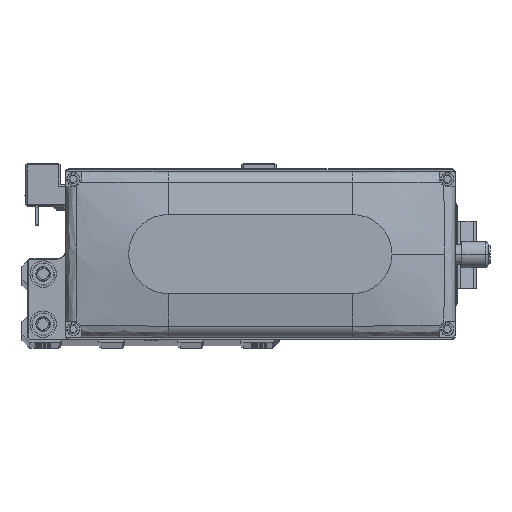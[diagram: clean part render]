
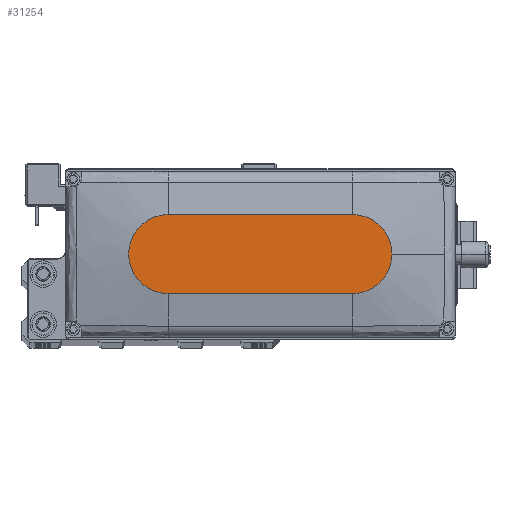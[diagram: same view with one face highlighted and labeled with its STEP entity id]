
A CAD part, top view. The second image highlights one B-rep face of the part: STEP entity #31254.
In plain terms, the highlighted planar face has unit normal (0, 0, 1).
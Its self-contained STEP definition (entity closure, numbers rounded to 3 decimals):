
#622 = CARTESIAN_POINT ( 'NONE',  ( 35., -15., 35. ) ) ;
#1584 = CARTESIAN_POINT ( 'NONE',  ( -35., -15., 35. ) ) ;
#1585 = CIRCLE ( 'NONE', #27265, 15. ) ;
#3010 = DIRECTION ( 'NONE',  ( 1., 0., 0. ) ) ;
#3498 = DIRECTION ( 'NONE',  ( 0., 0., 1. ) ) ;
#3721 = EDGE_CURVE ( 'NONE', #25586, #3849, #40952, .T. ) ;
#3849 = VERTEX_POINT ( 'NONE', #17916 ) ;
#4476 = EDGE_CURVE ( 'NONE', #3849, #38368, #12777, .T. ) ;
#4760 = DIRECTION ( 'NONE',  ( 1., 0., 0. ) ) ;
#6021 = CARTESIAN_POINT ( 'NONE',  ( -35., -15., 35. ) ) ;
#6940 = FACE_OUTER_BOUND ( 'NONE', #18887, .T. ) ;
#8916 = ORIENTED_EDGE ( 'NONE', *, *, #19482, .T. ) ;
#9832 = VECTOR ( 'NONE', #15597, 1000. ) ;
#10639 = AXIS2_PLACEMENT_3D ( 'NONE', #44815, #13382, #27393 ) ;
#12470 = EDGE_CURVE ( 'NONE', #29835, #25586, #1585, .T. ) ;
#12777 = LINE ( 'NONE', #26787, #15683 ) ;
#13382 = DIRECTION ( 'NONE',  ( 0., 0., 1. ) ) ;
#15597 = DIRECTION ( 'NONE',  ( 1., 0., 0. ) ) ;
#15683 = VECTOR ( 'NONE', #40792, 1000. ) ;
#17495 = DIRECTION ( 'NONE',  ( 1., 0., 0. ) ) ;
#17916 = CARTESIAN_POINT ( 'NONE',  ( 35., 15., 35. ) ) ;
#18155 = ORIENTED_EDGE ( 'NONE', *, *, #3721, .T. ) ;
#18887 = EDGE_LOOP ( 'NONE', ( #19206, #35647, #8916, #36996, #18155 ) ) ;
#19206 = ORIENTED_EDGE ( 'NONE', *, *, #4476, .T. ) ;
#19482 = EDGE_CURVE ( 'NONE', #26014, #29835, #33052, .T. ) ;
#20454 = CARTESIAN_POINT ( 'NONE',  ( 35., 0., 35. ) ) ;
#20963 = PLANE ( 'NONE',  #27077 ) ;
#21176 = AXIS2_PLACEMENT_3D ( 'NONE', #20454, #34468, #3010 ) ;
#22205 = CARTESIAN_POINT ( 'NONE',  ( 35., 0., 35. ) ) ;
#25586 = VERTEX_POINT ( 'NONE', #41194 ) ;
#26014 = VERTEX_POINT ( 'NONE', #6021 ) ;
#26682 = CARTESIAN_POINT ( 'NONE',  ( -35., 15., 35. ) ) ;
#26787 = CARTESIAN_POINT ( 'NONE',  ( -35., 15., 35. ) ) ;
#27077 = AXIS2_PLACEMENT_3D ( 'NONE', #34963, #3498, #17495 ) ;
#27265 = AXIS2_PLACEMENT_3D ( 'NONE', #22205, #36220, #4760 ) ;
#27393 = DIRECTION ( 'NONE',  ( 1., 0., 0. ) ) ;
#27510 = EDGE_CURVE ( 'NONE', #38368, #26014, #30449, .T. ) ;
#29835 = VERTEX_POINT ( 'NONE', #622 ) ;
#30449 = CIRCLE ( 'NONE', #10639, 15. ) ;
#31254 = ADVANCED_FACE ( 'NONE', ( #6940 ), #20963, .T. ) ;
#33052 = LINE ( 'NONE', #1584, #9832 ) ;
#34468 = DIRECTION ( 'NONE',  ( 0., 0., 1. ) ) ;
#34963 = CARTESIAN_POINT ( 'NONE',  ( 0., 0., 35. ) ) ;
#35647 = ORIENTED_EDGE ( 'NONE', *, *, #27510, .T. ) ;
#36220 = DIRECTION ( 'NONE',  ( 0., 0., 1. ) ) ;
#36996 = ORIENTED_EDGE ( 'NONE', *, *, #12470, .T. ) ;
#38368 = VERTEX_POINT ( 'NONE', #26682 ) ;
#40792 = DIRECTION ( 'NONE',  ( -1., 0., 0. ) ) ;
#40952 = CIRCLE ( 'NONE', #21176, 15. ) ;
#41194 = CARTESIAN_POINT ( 'NONE',  ( 50., 0., 35. ) ) ;
#44815 = CARTESIAN_POINT ( 'NONE',  ( -35., 0., 35. ) ) ;
